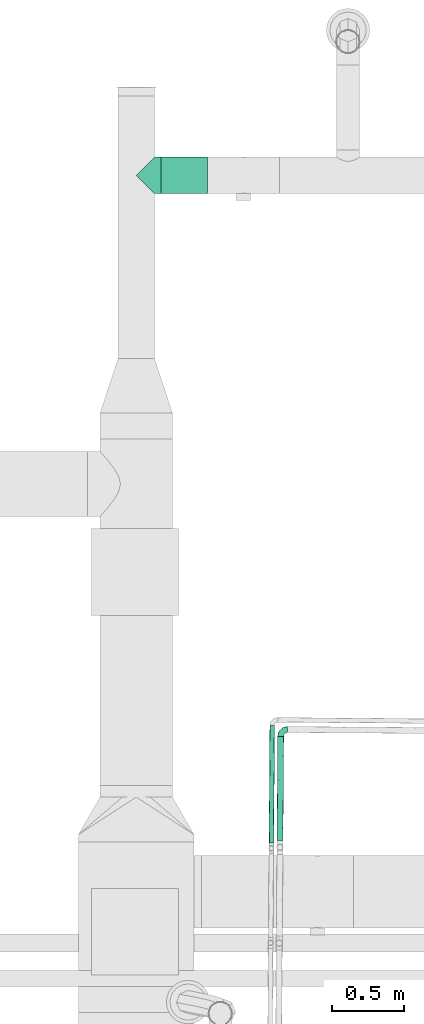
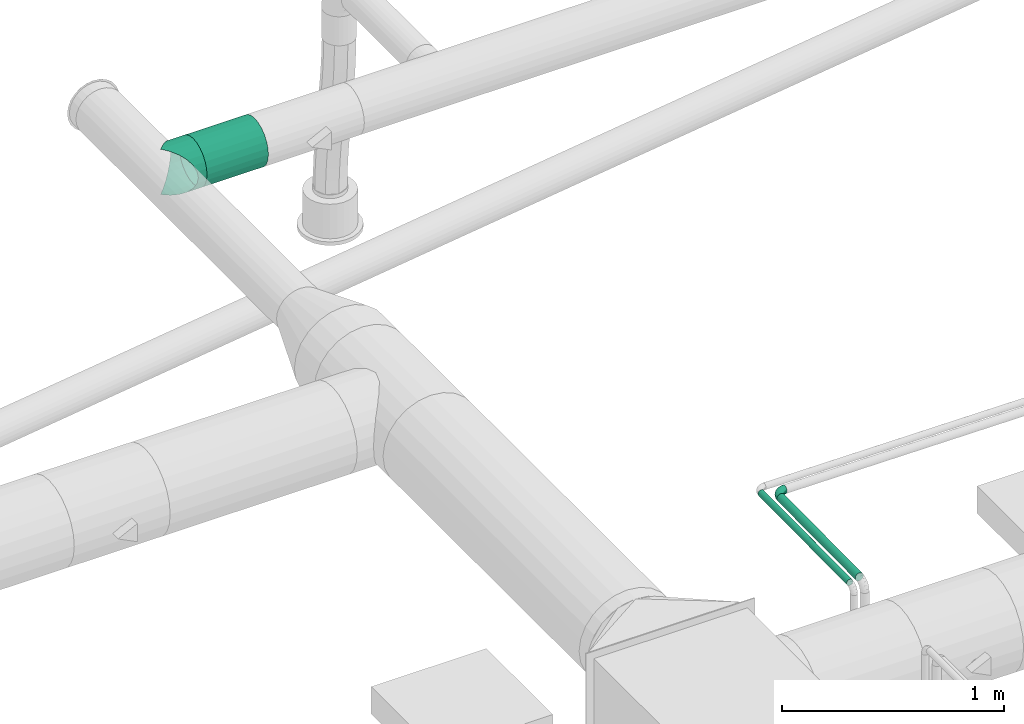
# One storey, part 320 of 374: 5 flow segments.
"""IFC2X3 building model written with IfcOpenShell, lengths in metres."""

from ifc_helpers import new_model, si_unit, direction, origin, place, context, subcontext, project, spatial, open_shell, surface_model, source, transform, mapped, element, save


model = new_model("IFC2X3")

# Units and contexts
model_context = context("Model", 3, precision=1e-05, world=origin(), true_north=direction((-0.4480736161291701, 0.8939966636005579)))
body_context = subcontext(model_context, "Body", "Model", "MODEL_VIEW")
ifc_project = project(units=[si_unit("LENGTHUNIT", "METRE"), si_unit("AREAUNIT", "SQUARE_METRE"), si_unit("VOLUMEUNIT", "CUBIC_METRE"), si_unit("PLANEANGLEUNIT", "RADIAN"), si_unit("THERMODYNAMICTEMPERATUREUNIT", "KELVIN"), si_unit("MASSUNIT", "GRAM", prefix="KILO"), si_unit("TIMEUNIT", "SECOND")], contexts=[model_context])

# Site, building, storey
site_placement = place(None, origin())
site = spatial("IfcSite", under=ifc_project, at=site_placement, Name="Site 1", CompositionType="ELEMENT")
building_placement = place(site_placement, origin())
building = spatial("IfcBuilding", under=site, at=building_placement, Name="Undefined", CompositionType="ELEMENT")
storey_placement = place(building_placement, origin())
storey = spatial("IfcBuildingStorey", under=building, at=storey_placement, Name="Rez de chauss\x8ee", CompositionType="ELEMENT", Elevation=0.0)

# Flow segments
shared_shape_1 = source(origin(), body_context, "Body", "SurfaceModel", [
    surface_model("IfcFaceBasedSurfaceModel", [(0.004259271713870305, 0.03263154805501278, -3.552713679e-15), (0.0, 0.0, 0.0), (0.04925927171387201, -8.8817842e-16, 0.0), (0.04925927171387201, 0.03263154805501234, -3.552713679e-15), (-0.012487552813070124, -0.03151965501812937, -0.008445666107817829), (0.04925927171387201, -0.031519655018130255, -0.008445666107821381), (-0.03235238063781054, -0.05977940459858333, -0.024761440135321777), (0.04925927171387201, -0.05977940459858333, -0.024761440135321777), (-0.058240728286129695, -0.08285339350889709, -0.047835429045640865), (0.04925927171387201, -0.08285339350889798, -0.04783542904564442), (-0.08838834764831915, -0.09916916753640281, -0.07609517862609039), (0.049259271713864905, -0.0991691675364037, -0.07609517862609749), (-0.1207407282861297, -0.10761483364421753, -0.1076148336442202), (0.04925927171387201, -0.10761483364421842, -0.1076148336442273), (-0.08838834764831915, -0.10761483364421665, -0.14024638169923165), (0.049259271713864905, -0.10761483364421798, -0.14024638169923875), (-0.0582407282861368, -0.09916916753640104, -0.171766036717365), (0.049259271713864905, -0.09916916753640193, -0.17176603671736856), (-0.03235238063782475, -0.08285339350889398, -0.2000257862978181), (0.0492592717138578, -0.08285339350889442, -0.20002578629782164), (-0.012487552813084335, -0.05977940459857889, -0.22309977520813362), (0.049259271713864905, -0.05977940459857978, -0.22309977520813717), (0.0, -0.03151965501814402, -0.23941554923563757), (0.0492592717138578, -0.03151965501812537, -0.23941554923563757), (0.0042592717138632, 4.884981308e-15, -0.2478612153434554), (0.049259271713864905, 4.440892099e-15, -0.24786121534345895), (0.0, 0.03263154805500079, -0.24786121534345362), (0.0492592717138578, 0.03263154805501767, -0.24786121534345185), (-0.012487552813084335, 0.06415120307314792, -0.23941554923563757), (0.049259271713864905, 0.06415120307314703, -0.23941554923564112), (-0.03235238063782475, 0.092410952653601, -0.22309977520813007), (0.0492592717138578, 0.09241095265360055, -0.22309977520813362), (-0.0582407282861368, 0.1154849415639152, -0.20002578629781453), (0.049259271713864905, 0.11548494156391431, -0.2000257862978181), (-0.08838834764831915, 0.13180071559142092, -0.17176603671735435), (0.049259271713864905, 0.1318007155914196, -0.17176603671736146), (-0.1207407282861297, 0.14024638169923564, -0.1402463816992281), (0.04925927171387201, 0.14024638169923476, -0.1402463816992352), (-0.08838834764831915, 0.14024638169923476, -0.10761483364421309), (0.049259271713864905, 0.14024638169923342, -0.10761483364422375), (-0.058240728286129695, 0.13180071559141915, -0.07609517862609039), (0.04925927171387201, 0.13180071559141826, -0.07609517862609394), (-0.03235238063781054, 0.11548494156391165, -0.04783542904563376), (0.04925927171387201, 0.11548494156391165, -0.04783542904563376), (-0.012487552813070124, 0.09241095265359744, -0.024761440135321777), (0.04925927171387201, 0.09241095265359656, -0.02476144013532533), (0.0, 0.06415120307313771, -0.008445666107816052), (0.04925927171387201, 0.06415120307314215, -0.008445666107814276)], [open_shell([[[0, 1, 2, 3]], [[1, 4, 5, 2]], [[4, 6, 7, 5]], [[6, 8, 9, 7]], [[8, 10, 11, 9]], [[10, 12, 13, 11]], [[12, 14, 15, 13]], [[14, 16, 17, 15]], [[16, 18, 19, 17]], [[18, 20, 21, 19]], [[20, 22, 23, 21]], [[22, 24, 25, 23]], [[24, 26, 27, 25]], [[26, 28, 29, 27]], [[28, 30, 31, 29]], [[30, 32, 33, 31]], [[32, 34, 35, 33]], [[34, 36, 37, 35]], [[36, 38, 39, 37]], [[38, 40, 41, 39]], [[40, 42, 43, 41]], [[42, 44, 45, 43]], [[44, 46, 47, 45]], [[46, 0, 3, 47]]])]),
])
flow_segment_1_placement = place(storey_placement, origin())
element("IfcFlowSegment", 1, at=flow_segment_1_placement, inside=storey, Name="Piquage équerre circulaire", ObjectType="Piquage équerre circulaire", context=body_context, shape_type="MappedRepresentation", body=[
    mapped(shared_shape_1, transform((52.05573579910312, 22.537134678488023, 3.7676476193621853), x_axis=(1.0, 0.0, 0.0), y_axis=(0.0, -0.1305261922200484, 0.9914448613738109), z_axis=(0.0, -0.9914448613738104, -0.13052619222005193))),
])
shared_shape_2 = source(origin(), body_context, "Body", "SurfaceModel", [
    surface_model("IfcFaceBasedSurfaceModel", [(0.0, 0.03263154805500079, 0.0), (0.0, 0.0, 0.0), (0.3199999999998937, 0.0, 0.0), (0.3199999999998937, 0.03263154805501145, 0.0), (0.0, -0.031519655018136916, -0.008445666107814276), (0.3199999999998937, -0.03151965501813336, -0.008445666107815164), (0.0, -0.05977940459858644, -0.024761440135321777), (0.3199999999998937, -0.059779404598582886, -0.024761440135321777), (0.0, -0.08285339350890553, -0.047835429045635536), (0.3199999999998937, -0.08285339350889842, -0.047835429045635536), (0.0, -0.09916916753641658, -0.07609517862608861), (0.3199999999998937, -0.09916916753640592, -0.07609517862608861), (0.0, -0.1076148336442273, -0.10761483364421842), (0.3199999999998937, -0.10761483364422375, -0.10761483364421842), (0.0, -0.1076148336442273, -0.14024638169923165), (0.3199999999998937, -0.10761483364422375, -0.14024638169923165), (0.0, -0.09916916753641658, -0.17176603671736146), (0.3199999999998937, -0.09916916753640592, -0.17176603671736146), (0.0, -0.08285339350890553, -0.2000257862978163), (0.3199999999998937, -0.08285339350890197, -0.2000257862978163), (0.0, -0.059779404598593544, -0.22309977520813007), (0.3199999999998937, -0.05977940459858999, -0.22309977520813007), (0.0, -0.03151965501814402, -0.23941554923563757), (0.3199999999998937, -0.03151965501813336, -0.23941554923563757), (0.0, -1.4210854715e-14, -0.24786121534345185), (0.3199999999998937, -3.552713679e-15, -0.24786121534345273), (0.0, 0.03263154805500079, -0.24786121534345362), (0.3199999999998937, 0.0326315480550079, -0.24786121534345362), (0.0, 0.0641512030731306, -0.23941554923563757), (0.3199999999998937, 0.06415120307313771, -0.23941554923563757), (0.0, 0.09241095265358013, -0.22309977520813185), (0.3199999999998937, 0.09241095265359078, -0.22309977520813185), (0.0, 0.11548494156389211, -0.2000257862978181), (0.3199999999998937, 0.11548494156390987, -0.2000257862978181), (0.0, 0.13180071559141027, -0.171766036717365), (0.3199999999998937, 0.13180071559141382, -0.171766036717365), (0.0, 0.140246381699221, -0.1402463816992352), (0.3199999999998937, 0.1402463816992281, -0.1402463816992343), (0.0, 0.140246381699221, -0.10761483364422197), (0.3199999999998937, 0.14024638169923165, -0.10761483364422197), (0.0, 0.13180071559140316, -0.07609517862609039), (0.3199999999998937, 0.13180071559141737, -0.07609517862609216), (0.0, 0.11548494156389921, -0.04783542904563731), (0.3199999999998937, 0.11548494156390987, -0.04783542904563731), (0.0, 0.09241095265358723, -0.024761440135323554), (0.3199999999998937, 0.09241095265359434, -0.024761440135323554), (0.0, 0.06415120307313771, -0.008445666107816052), (0.3199999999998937, 0.06415120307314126, -0.008445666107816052)], [open_shell([[[0, 1, 2, 3]], [[1, 4, 5, 2]], [[4, 6, 7, 5]], [[6, 8, 9, 7]], [[8, 10, 11, 9]], [[10, 12, 13, 11]], [[12, 14, 15, 13]], [[14, 16, 17, 15]], [[16, 18, 19, 17]], [[18, 20, 21, 19]], [[20, 22, 23, 21]], [[22, 24, 25, 23]], [[24, 26, 27, 25]], [[26, 28, 29, 27]], [[28, 30, 31, 29]], [[30, 32, 33, 31]], [[32, 34, 35, 33]], [[34, 36, 37, 35]], [[36, 38, 39, 37]], [[38, 40, 41, 39]], [[40, 42, 43, 41]], [[42, 44, 45, 43]], [[44, 46, 47, 45]], [[46, 0, 3, 47]]])]),
])
flow_segment_2_placement = place(storey_placement, origin())
element("IfcFlowSegment", 2, at=flow_segment_2_placement, inside=storey, Name="Tube", ObjectType="Tube", context=body_context, shape_type="MappedRepresentation", body=[
    mapped(shared_shape_2, transform((52.424995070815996, 22.690227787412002, 3.920740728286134), x_axis=(-1.0, 0.0, 0.0), y_axis=(7.266545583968e-12, -0.9914448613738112, 0.13052619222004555), z_axis=(0.0, 0.13052619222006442, 0.9914448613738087))),
])
shared_shape_3 = source(origin(), body_context, "Body", "SurfaceModel", [
    surface_model("IfcFaceBasedSurfaceModel", [(0.01806482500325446, 7.105427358e-15, 0.0), (0.017970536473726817, 0.005533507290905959, 0.0), (9.428852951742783e-05, 0.005533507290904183, 1.776356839e-15), (0.0, 0.0, 0.0), (-0.017172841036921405, 0.00613233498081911, -0.004587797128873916), (-0.01744928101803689, 0.0006051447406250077, -0.004636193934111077), (-0.03265412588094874, 0.007289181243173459, -0.013450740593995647), (-0.0330938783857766, 0.0017741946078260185, -0.013592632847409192), (-0.045294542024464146, 0.008925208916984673, -0.02598483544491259), (-0.045867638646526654, 0.0034274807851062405, -0.02625895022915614), (-0.054232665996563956, 0.010928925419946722, -0.041335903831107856), (-0.05490005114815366, 0.005452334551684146, -0.04177195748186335), (-0.05885937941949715, 0.013163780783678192, -0.05845779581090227), (-0.059575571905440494, 0.007710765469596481, -0.05907446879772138), (0.01769409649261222, 0.010875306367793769, -0.0014203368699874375), (0.00037072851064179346, 0.010875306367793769, -0.0014203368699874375), (-0.016362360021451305, 0.011455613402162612, -0.005866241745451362), (-0.03136483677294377, 0.012576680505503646, -0.014455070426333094), (-0.04361430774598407, 0.014162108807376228, -0.026601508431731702), (-0.05227599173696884, 0.016103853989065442, -0.0414777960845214), (-0.05675960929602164, 0.018269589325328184, -0.05807013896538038), (0.017254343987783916, 0.015661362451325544, -0.0041642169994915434), (0.0008104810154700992, 0.015661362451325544, -0.004164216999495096), (-0.01507307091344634, 0.016212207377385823, -0.008384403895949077), (-0.029313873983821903, 0.01727635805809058, -0.016537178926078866), (-0.04094144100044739, 0.01878129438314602, -0.02806694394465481), (-0.049163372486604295, 0.02062445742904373, -0.042187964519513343), (-0.05341935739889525, 0.02268023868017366, -0.05793791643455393), (0.016681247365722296, 0.01956551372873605, -0.008044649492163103), (0.001383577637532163, 0.01956551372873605, -0.008044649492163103), (-0.01339283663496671, 0.020077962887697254, -0.011970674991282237), (-0.026641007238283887, 0.021067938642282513, -0.01955517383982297), (-0.03745809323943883, 0.02246797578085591, -0.03028127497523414), (-0.04510692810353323, 0.0241826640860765, -0.04341801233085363), (-0.04906625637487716, 0.026095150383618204, -0.05807013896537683), (0.016013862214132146, 0.022321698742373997, -0.012797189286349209), (0.0020509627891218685, 0.022321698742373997, -0.012797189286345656), (-0.011436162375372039, 0.02278943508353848, -0.016380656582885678), (-0.023528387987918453, 0.02369303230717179, -0.023303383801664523), (-0.03340164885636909, 0.024970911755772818, -0.03309359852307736), (-0.040383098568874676, 0.026535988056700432, -0.04508411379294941), (-0.04399696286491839, 0.028281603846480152, -0.05845779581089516), (0.015297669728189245, 0.023742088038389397, -0.018097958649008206), (0.00276715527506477, 0.023742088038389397, -0.018097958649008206), (-0.009336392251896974, 0.024161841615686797, -0.021313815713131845), (-0.02018813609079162, 0.02497274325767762, -0.0275263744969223), (-0.029048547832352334, 0.02611953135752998, -0.03631225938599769), (-0.03531380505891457, 0.027524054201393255, -0.04707272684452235), (-0.0385569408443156, 0.02909059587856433, -0.05907446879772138), (0.014581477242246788, 0.023729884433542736, -0.02358571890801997), (0.0034833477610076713, 0.023729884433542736, -0.02358571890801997), (-0.007236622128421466, 0.024101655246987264, -0.026433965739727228), (-0.016847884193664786, 0.02481986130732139, -0.03193635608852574), (-0.02469544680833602, 0.02583555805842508, -0.03971791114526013), (-0.0302445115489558, 0.027079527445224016, -0.04924833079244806), (-0.03311691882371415, 0.02846699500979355, -0.059878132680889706), (0.013914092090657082, 0.02228591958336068, -0.02888648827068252), (0.004150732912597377, 0.022285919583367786, -0.028886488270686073), (-0.005279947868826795, 0.022612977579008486, -0.031392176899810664), (-0.013735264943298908, 0.023244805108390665, -0.03623279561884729), (-0.020639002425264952, 0.02413834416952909, -0.04307846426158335), (-0.025520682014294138, 0.025232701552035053, -0.051462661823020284), (-0.028047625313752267, 0.026453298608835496, -0.060814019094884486), (0.013340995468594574, 0.01950859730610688, -0.03363902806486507), (0.0047238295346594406, 0.01950859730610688, -0.033639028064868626), (-0.0035997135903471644, 0.019797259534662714, -0.035850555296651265), (-0.011062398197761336, 0.0203549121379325, -0.04012289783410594), (-0.017155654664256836, 0.021143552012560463, -0.04616490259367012), (-0.02146423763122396, 0.022109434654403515, -0.05356481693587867), (-0.02369452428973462, 0.023186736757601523, -0.06181834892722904), (0.012901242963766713, 0.015587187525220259, -0.037519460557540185), (0.005163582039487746, 0.015587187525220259, -0.03751946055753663), (-0.0023104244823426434, 0.015846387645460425, -0.03950526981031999), (-0.009011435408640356, 0.016347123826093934, -0.043341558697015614), (-0.01448278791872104, 0.017055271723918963, -0.048766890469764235), (-0.018351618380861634, 0.017922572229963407, -0.05541153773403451), (-0.02035427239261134, 0.018889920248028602, -0.06282267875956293), (0.012624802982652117, 0.010788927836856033, -0.040263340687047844), (0.005440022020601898, 0.010788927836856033, -0.0402633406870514), (-0.0014999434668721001, 0.011029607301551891, -0.04210725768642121), (-0.007722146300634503, 0.01149456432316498, -0.045669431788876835), (-0.012802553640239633, 0.012152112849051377, -0.05070710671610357), (-0.0163949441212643, 0.012957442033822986, -0.056876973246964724), (-0.018254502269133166, 0.013855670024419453, -0.06375856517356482), (0.012530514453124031, 0.005440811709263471, -0.041683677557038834), (0.005534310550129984, 0.0054408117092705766, -0.041683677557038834), (-0.0012235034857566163, 0.005675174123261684, -0.04347919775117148), (-0.007282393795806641, 0.006127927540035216, -0.046947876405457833), (-0.012229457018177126, 0.0067682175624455, -0.05185332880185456), (-0.015727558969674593, 0.007552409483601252, -0.05786125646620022), (-0.01753830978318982, 0.008427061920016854, -0.0645622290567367), (0.012624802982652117, -9.269558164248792e-05, -0.04168367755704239), (0.005440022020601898, -9.269558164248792e-05, -0.04168367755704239), (-0.0014999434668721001, 0.00014798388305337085, -0.0435275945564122), (-0.007722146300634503, 0.0006129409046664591, -0.047089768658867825), (-0.012802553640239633, 0.001270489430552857, -0.05212744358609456), (-0.0163949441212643, 0.002075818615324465, -0.058297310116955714), (-0.018254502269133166, 0.0029740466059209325, -0.06517890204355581), (0.012901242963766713, -0.005434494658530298, -0.0402633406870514), (0.005163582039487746, -0.005434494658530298, -0.040263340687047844), (-0.0023104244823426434, -0.005175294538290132, -0.0422491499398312), (-0.009011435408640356, -0.004674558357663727, -0.046085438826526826), (-0.01448278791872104, -0.0039664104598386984, -0.051510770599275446), (-0.018351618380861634, -0.0030991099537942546, -0.05815541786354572), (-0.02035427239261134, -0.0021317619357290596, -0.06556655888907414), (0.013340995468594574, -0.010220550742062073, -0.03751946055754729), (0.0047238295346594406, -0.010220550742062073, -0.03751946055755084), (-0.0035997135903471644, -0.009931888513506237, -0.03973098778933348), (-0.011062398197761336, -0.009374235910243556, -0.04400333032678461), (-0.017155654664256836, -0.00858559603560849, -0.05004533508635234), (-0.02146423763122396, -0.007619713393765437, -0.057445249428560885), (-0.02369452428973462, -0.006542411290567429, -0.06569878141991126), (0.013914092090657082, -0.01412470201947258, -0.03363902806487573), (0.004150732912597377, -0.014124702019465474, -0.033639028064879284), (-0.005279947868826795, -0.013797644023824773, -0.036144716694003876), (-0.013735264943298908, -0.013165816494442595, -0.0409853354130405), (-0.020639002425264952, -0.012272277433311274, -0.04783100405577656), (-0.025520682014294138, -0.011177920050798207, -0.05621520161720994), (-0.028047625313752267, -0.009957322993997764, -0.0655665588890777), (0.014581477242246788, -0.01688088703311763, -0.028886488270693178), (0.0034833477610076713, -0.01688088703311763, -0.028886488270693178), (-0.007236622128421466, -0.016509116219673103, -0.031734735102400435), (-0.016847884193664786, -0.015790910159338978, -0.03723712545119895), (-0.02469544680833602, -0.014775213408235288, -0.04501868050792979), (-0.0302445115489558, -0.01353124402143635, -0.054549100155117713), (-0.03311691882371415, -0.012143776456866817, -0.06517890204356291), (0.015297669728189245, -0.01830127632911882, -0.02358571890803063), (0.00276715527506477, -0.01830127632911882, -0.02358571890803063), (-0.009336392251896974, -0.01788152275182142, -0.026801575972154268), (-0.02018813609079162, -0.017070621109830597, -0.033014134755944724), (-0.029048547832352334, -0.01592383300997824, -0.04180001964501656), (-0.03531380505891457, -0.014519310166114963, -0.05256048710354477), (-0.0385569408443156, -0.012952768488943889, -0.06456222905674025), (0.016013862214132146, -0.01828907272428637, -0.018097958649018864), (0.0020509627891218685, -0.01828907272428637, -0.018097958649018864), (-0.011436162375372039, -0.01782133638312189, -0.021681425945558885), (-0.023528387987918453, -0.016917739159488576, -0.02860415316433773), (-0.03340164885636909, -0.01563985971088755, -0.038394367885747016), (-0.040383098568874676, -0.014074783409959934, -0.05038488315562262), (-0.04399696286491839, -0.012329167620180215, -0.06375856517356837), (0.016681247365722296, -0.01684510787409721, -0.012797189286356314), (0.001383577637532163, -0.01684510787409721, -0.012797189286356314), (-0.01339283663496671, -0.016332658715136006, -0.01672321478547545), (-0.026641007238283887, -0.015342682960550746, -0.02430771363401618), (-0.03745809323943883, -0.01394264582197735, -0.03503381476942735), (-0.04510692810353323, -0.01222795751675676, -0.04817055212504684), (-0.04906625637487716, -0.010315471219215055, -0.06282267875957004), (0.017254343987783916, -0.014067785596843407, -0.008044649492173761), (0.0008104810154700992, -0.014067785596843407, -0.008044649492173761), (-0.01507307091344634, -0.013516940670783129, -0.012264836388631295), (-0.029313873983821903, -0.012452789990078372, -0.020417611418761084), (-0.04094144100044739, -0.010947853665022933, -0.03194737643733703), (-0.049163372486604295, -0.009104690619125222, -0.04606839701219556), (-0.05341935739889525, -0.007048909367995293, -0.06181834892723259), (0.01769409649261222, -0.010146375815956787, -0.004164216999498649), (0.00037072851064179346, -0.010146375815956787, -0.004164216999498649), (-0.016362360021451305, -0.009566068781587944, -0.008610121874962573), (-0.03136483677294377, -0.008445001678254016, -0.017198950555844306), (-0.04361430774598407, -0.006859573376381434, -0.029345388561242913), (-0.05227599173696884, -0.00491782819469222, -0.04422167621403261), (-0.05675960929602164, -0.002752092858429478, -0.060814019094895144), (0.017970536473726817, -0.0053481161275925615, -0.0014203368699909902), (9.428852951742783e-05, -0.0053481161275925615, -0.0014203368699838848), (-0.017172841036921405, -0.004749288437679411, -0.006008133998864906), (-0.03265412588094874, -0.0035924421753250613, -0.014871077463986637), (-0.045294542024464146, -0.001956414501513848, -0.02740517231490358), (-0.05423266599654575, 4.730200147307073e-05, -0.042756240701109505), (-0.05885937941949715, 0.002282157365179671, -0.05987813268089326)], [open_shell([[[0, 1, 2, 3]], [[3, 2, 4, 5]], [[5, 4, 6, 7]], [[7, 6, 8, 9]], [[9, 8, 10, 11]], [[11, 10, 12, 13]], [[1, 14, 15, 2]], [[2, 15, 16, 4]], [[4, 16, 17, 6]], [[6, 17, 18, 8]], [[8, 18, 19, 10]], [[10, 19, 20, 12]], [[14, 21, 22, 15]], [[15, 22, 23, 16]], [[16, 23, 24, 17]], [[17, 24, 25, 18]], [[18, 25, 26, 19]], [[19, 26, 27, 20]], [[21, 28, 29, 22]], [[22, 29, 30, 23]], [[23, 30, 31, 24]], [[24, 31, 32, 25]], [[25, 32, 33, 26]], [[26, 33, 34, 27]], [[28, 35, 36, 29]], [[29, 36, 37, 30]], [[30, 37, 38, 31]], [[31, 38, 39, 32]], [[32, 39, 40, 33]], [[33, 40, 41, 34]], [[35, 42, 43, 36]], [[36, 43, 44, 37]], [[37, 44, 45, 38]], [[38, 45, 46, 39]], [[39, 46, 47, 40]], [[40, 47, 48, 41]], [[42, 49, 50, 43]], [[43, 50, 51, 44]], [[44, 51, 52, 45]], [[45, 52, 53, 46]], [[46, 53, 54, 47]], [[47, 54, 55, 48]], [[49, 56, 57, 50]], [[50, 57, 58, 51]], [[51, 58, 59, 52]], [[52, 59, 60, 53]], [[53, 60, 61, 54]], [[54, 61, 62, 55]], [[56, 63, 64, 57]], [[57, 64, 65, 58]], [[58, 65, 66, 59]], [[59, 66, 67, 60]], [[60, 67, 68, 61]], [[61, 68, 69, 62]], [[63, 70, 71, 64]], [[64, 71, 72, 65]], [[65, 72, 73, 66]], [[66, 73, 74, 67]], [[67, 74, 75, 68]], [[68, 75, 76, 69]], [[70, 77, 78, 71]], [[71, 78, 79, 72]], [[72, 79, 80, 73]], [[73, 80, 81, 74]], [[74, 81, 82, 75]], [[75, 82, 83, 76]], [[77, 84, 85, 78]], [[78, 85, 86, 79]], [[79, 86, 87, 80]], [[80, 87, 88, 81]], [[81, 88, 89, 82]], [[82, 89, 90, 83]], [[84, 91, 92, 85]], [[85, 92, 93, 86]], [[86, 93, 94, 87]], [[87, 94, 95, 88]], [[88, 95, 96, 89]], [[89, 96, 97, 90]], [[91, 98, 99, 92]], [[92, 99, 100, 93]], [[93, 100, 101, 94]], [[94, 101, 102, 95]], [[95, 102, 103, 96]], [[96, 103, 104, 97]], [[98, 105, 106, 99]], [[99, 106, 107, 100]], [[100, 107, 108, 101]], [[101, 108, 109, 102]], [[102, 109, 110, 103]], [[103, 110, 111, 104]], [[105, 112, 113, 106]], [[106, 113, 114, 107]], [[107, 114, 115, 108]], [[108, 115, 116, 109]], [[109, 116, 117, 110]], [[110, 117, 118, 111]], [[112, 119, 120, 113]], [[113, 120, 121, 114]], [[114, 121, 122, 115]], [[115, 122, 123, 116]], [[116, 123, 124, 117]], [[117, 124, 125, 118]], [[119, 126, 127, 120]], [[120, 127, 128, 121]], [[121, 128, 129, 122]], [[122, 129, 130, 123]], [[123, 130, 131, 124]], [[124, 131, 132, 125]], [[126, 133, 134, 127]], [[127, 134, 135, 128]], [[128, 135, 136, 129]], [[129, 136, 137, 130]], [[130, 137, 138, 131]], [[131, 138, 139, 132]], [[133, 140, 141, 134]], [[134, 141, 142, 135]], [[135, 142, 143, 136]], [[136, 143, 144, 137]], [[137, 144, 145, 138]], [[138, 145, 146, 139]], [[140, 147, 148, 141]], [[141, 148, 149, 142]], [[142, 149, 150, 143]], [[143, 150, 151, 144]], [[144, 151, 152, 145]], [[145, 152, 153, 146]], [[147, 154, 155, 148]], [[148, 155, 156, 149]], [[149, 156, 157, 150]], [[150, 157, 158, 151]], [[151, 158, 159, 152]], [[152, 159, 160, 153]], [[154, 161, 162, 155]], [[155, 162, 163, 156]], [[156, 163, 164, 157]], [[157, 164, 165, 158]], [[158, 165, 166, 159]], [[159, 166, 167, 160]], [[161, 0, 3, 162]], [[162, 3, 5, 163]], [[163, 5, 7, 164]], [[164, 7, 9, 165]], [[165, 9, 11, 166]], [[166, 11, 13, 167]]])]),
])
flow_segment_3_placement = place(storey_placement, origin())
element("IfcFlowSegment", 3, at=flow_segment_3_placement, inside=storey, Name="Tube coudé", ObjectType="Tube coudé", context=body_context, shape_type="MappedRepresentation", body=[
    mapped(shared_shape_3, transform((52.962484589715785, 18.85203759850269, 4.0051404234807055), x_axis=(0.9923319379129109, 0.12360147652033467, 0.0), y_axis=(0.0159975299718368, -0.12843584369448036, -0.9915887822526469), z_axis=(-0.12256183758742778, 0.9839852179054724, -0.12942830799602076))),
])
shared_shape_4 = source(origin(), body_context, "Body", "SurfaceModel", [
    surface_model("IfcFaceBasedSurfaceModel", [(0.0, 0.004398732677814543, 0.0), (0.0, 0.0, 0.0), (0.8102739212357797, 0.0, 4.4408921e-16), (0.8102739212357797, 0.00439873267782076, -8.8817842e-16), (0.0, -0.004248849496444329, -0.00113847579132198), (0.8102739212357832, -0.00424884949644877, -0.0011384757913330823), (0.0, -0.008058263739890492, -0.003337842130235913), (0.8102739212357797, -0.008058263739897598, -0.003337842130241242), (0.0, -0.01116863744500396, -0.0064482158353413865), (0.8102739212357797, -0.011168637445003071, -0.006448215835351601), (0.0, -0.013368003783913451, -0.010257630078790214), (0.8102739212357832, -0.013368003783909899, -0.010257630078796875), (0.0, -0.014506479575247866, -0.014506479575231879), (0.8102739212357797, -0.014506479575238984, -0.01450647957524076), (0.0, -0.01450647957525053, -0.01890521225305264), (0.8102739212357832, -0.014506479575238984, -0.018905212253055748), (0.0, -0.013368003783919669, -0.023154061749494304), (0.8102739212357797, -0.013368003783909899, -0.02315406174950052), (0.0, -0.011168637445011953, -0.02696347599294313), (0.8102739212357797, -0.011168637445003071, -0.026963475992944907), (0.0, -0.008058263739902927, -0.03007384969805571), (0.8102739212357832, -0.008058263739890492, -0.03007384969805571), (0.0, -0.004248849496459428, -0.03227321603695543), (0.8102739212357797, -0.0042488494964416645, -0.032273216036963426), (0.0, -1.5099033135e-14, -0.03341169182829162), (0.8102739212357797, 0.0, -0.03341169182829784), (0.0, 0.00439873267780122, -0.03341169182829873), (0.8102739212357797, 0.00439873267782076, -0.03341169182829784), (0.0, 0.008647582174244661, -0.03227321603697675), (0.8102739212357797, 0.00864758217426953, -0.032273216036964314), (0.0, 0.012456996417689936, -0.030073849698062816), (0.8102739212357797, 0.012456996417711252, -0.0300738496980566), (0.0, 0.01556737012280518, -0.026963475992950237), (0.8102739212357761, 0.015567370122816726, -0.026963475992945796), (0.0, 0.017766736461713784, -0.023154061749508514), (0.8102739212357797, 0.01776673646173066, -0.023154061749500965), (0.0, 0.018905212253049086, -0.01890521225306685), (0.8102739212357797, 0.018905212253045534, -0.018905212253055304), (0.0, 0.018905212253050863, -0.01450647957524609), (0.8102739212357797, 0.018905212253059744, -0.014506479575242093), (0.0, 0.01776673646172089, -0.01025763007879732), (0.8102739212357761, 0.017766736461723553, -0.010257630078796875), (0.0, 0.015567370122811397, -0.006448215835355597), (0.8102739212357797, 0.015567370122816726, -0.006448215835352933), (0.0, 0.012456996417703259, -0.0033378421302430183), (0.8102739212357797, 0.012456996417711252, -0.003337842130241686), (0.0, 0.00864758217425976, -0.0011384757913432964), (0.8102739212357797, 0.008647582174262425, -0.0011384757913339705)], [open_shell([[[0, 1, 2, 3]], [[1, 4, 5, 2]], [[4, 6, 7, 5]], [[6, 8, 9, 7]], [[8, 10, 11, 9]], [[10, 12, 13, 11]], [[12, 14, 15, 13]], [[14, 16, 17, 15]], [[16, 18, 19, 17]], [[18, 20, 21, 19]], [[20, 22, 23, 21]], [[22, 24, 25, 23]], [[24, 26, 27, 25]], [[26, 28, 29, 27]], [[28, 30, 31, 29]], [[30, 32, 33, 31]], [[32, 34, 35, 33]], [[34, 36, 37, 35]], [[36, 38, 39, 37]], [[38, 40, 41, 39]], [[40, 42, 43, 41]], [[42, 44, 45, 43]], [[44, 46, 47, 45]], [[46, 0, 3, 47]]])]),
])
flow_segment_4_placement = place(storey_placement, origin())
element("IfcFlowSegment", 4, at=flow_segment_4_placement, inside=storey, Name="Tube acier d'après DIN 2448", ObjectType="Tube acier d'après DIN 2448", context=body_context, shape_type="MappedRepresentation", body=[
    mapped(shared_shape_4, transform((52.868896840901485, 18.86139906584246, 4.021416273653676), x_axis=(-0.00698126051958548, -0.9999756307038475, 0.0), y_axis=(0.9914207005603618, -0.0069215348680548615, 0.1305261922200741), z_axis=(-0.13052301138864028, 0.000911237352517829, 0.9914448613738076))),
])
shared_shape_5 = source(origin(), body_context, "Body", "SurfaceModel", [
    surface_model("IfcFaceBasedSurfaceModel", [(0.7178814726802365, 0.0, -8.8817842e-16), (0.7178814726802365, 0.005534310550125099, -1.33226763e-15), (0.0, 0.005534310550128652, 0.0), (0.0, 0.0, 0.0), (0.7178814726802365, 0.010880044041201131, -0.0014323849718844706), (0.0, 0.010880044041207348, -0.0014323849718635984), (0.7178814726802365, 0.01567289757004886, -0.004199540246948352), (0.0, 0.015672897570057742, -0.004199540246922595), (0.7178814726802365, 0.019586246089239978, -0.00811288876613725), (0.0, 0.019586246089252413, -0.008112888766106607), (0.71788147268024, 0.02235340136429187, -0.01290574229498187), (0.0, 0.022353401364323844, -0.012905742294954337), (0.717881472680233, 0.02378578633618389, -0.018251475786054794), (0.0, 0.023785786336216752, -0.01825147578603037), (0.71788147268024, 0.02378578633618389, -0.023785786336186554), (0.0, 0.02378578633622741, -0.023785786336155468), (0.7178814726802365, 0.02235340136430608, -0.02913151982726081), (0.0, 0.0223534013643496, -0.029131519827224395), (0.7178814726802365, 0.019586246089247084, -0.03392437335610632), (0.0, 0.019586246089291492, -0.033924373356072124), (0.7178814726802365, 0.015672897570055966, -0.03783772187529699), (0.0, 0.01567289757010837, -0.03783772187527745), (0.7178814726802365, 0.010880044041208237, -0.04060487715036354), (0.0, 0.010880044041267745, -0.04060487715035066), (0.7178814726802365, 0.00553431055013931, -0.0420372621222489), (0.0, 0.005534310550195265, -0.04203726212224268), (0.717881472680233, 0.0, -0.04203726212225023), (0.0, 6.4837024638e-14, -0.042037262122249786), (0.7178814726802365, -0.005345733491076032, -0.04060487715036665), (0.0, -0.005345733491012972, -0.040604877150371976), (0.7178814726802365, -0.01013858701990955, -0.03783772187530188), (0.0, -0.010138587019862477, -0.037837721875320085), (0.7178814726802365, -0.01405193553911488, -0.033924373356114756), (0.0, -0.014051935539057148, -0.03392437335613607), (0.717881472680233, -0.01681909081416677, -0.029131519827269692), (0.0, -0.01681909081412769, -0.029131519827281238), (0.7178814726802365, -0.018251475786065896, -0.023785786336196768), (0.0, -0.0182514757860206, -0.02378578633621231), (0.717881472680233, -0.01825147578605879, -0.018251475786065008), (0.0, -0.018251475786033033, -0.018251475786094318), (0.7178814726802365, -0.01681909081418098, -0.012905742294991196), (0.0, -0.016819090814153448, -0.012905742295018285), (0.7178814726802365, -0.014051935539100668, -0.00811288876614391), (0.0, -0.01405193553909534, -0.008112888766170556), (0.7178814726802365, -0.010138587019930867, -0.004199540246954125), (0.0, -0.010138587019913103, -0.004199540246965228), (0.717881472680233, -0.005345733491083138, -0.0014323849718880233), (0.0, -0.00534573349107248, -0.0014323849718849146)], [open_shell([[[0, 1, 2, 3]], [[1, 4, 5, 2]], [[4, 6, 7, 5]], [[6, 8, 9, 7]], [[8, 10, 11, 9]], [[10, 12, 13, 11]], [[12, 14, 15, 13]], [[14, 16, 17, 15]], [[16, 18, 19, 17]], [[18, 20, 21, 19]], [[20, 22, 23, 21]], [[22, 24, 25, 23]], [[24, 26, 27, 25]], [[26, 28, 29, 27]], [[28, 30, 31, 29]], [[30, 32, 33, 31]], [[32, 34, 35, 33]], [[34, 36, 37, 35]], [[36, 38, 39, 37]], [[38, 40, 41, 39]], [[40, 42, 43, 41]], [[42, 44, 45, 43]], [[44, 46, 47, 45]], [[46, 0, 3, 47]]])]),
])
flow_segment_5_placement = place(storey_placement, origin())
element("IfcFlowSegment", 5, at=flow_segment_5_placement, inside=storey, Name="Tube acier d'après DIN 2448", ObjectType="Tube acier d'après DIN 2448", context=body_context, shape_type="MappedRepresentation", body=[
    mapped(shared_shape_5, transform((52.92691724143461, 18.067543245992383, 4.026340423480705), x_axis=(0.0069812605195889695, 0.9999756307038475, 0.0), y_axis=(-0.991420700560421, 0.0069215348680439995, -0.13052619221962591), z_axis=(-0.13052301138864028, 0.000911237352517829, 0.9914448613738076))),
])

save(model, "model.ifc")
